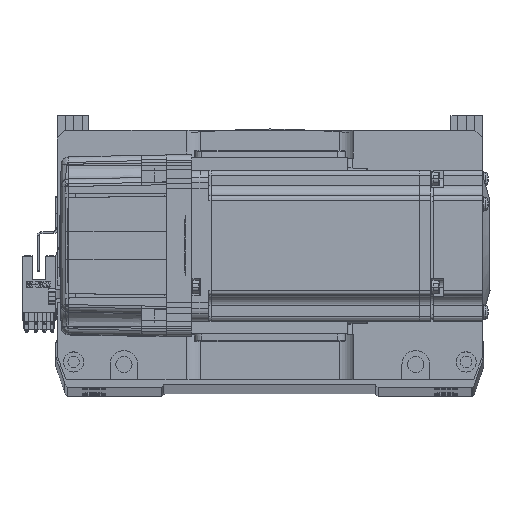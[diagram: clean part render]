
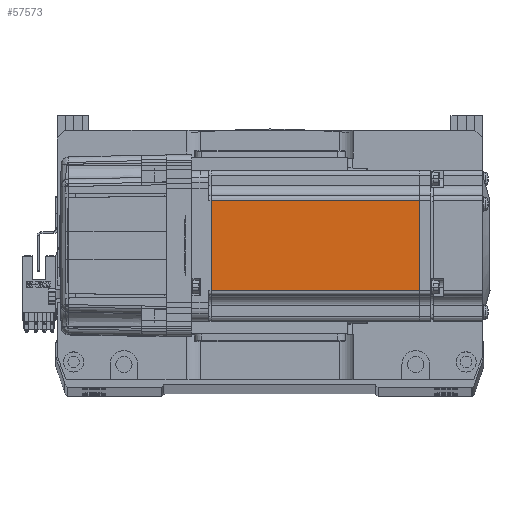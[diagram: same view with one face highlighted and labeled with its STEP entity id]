
A CAD part, top view. The second image highlights one B-rep face of the part: STEP entity #57573.
In plain terms, the highlighted planar face has unit normal (0, 0, 1) as drawn and (0, -1, 0) by its records, which use the part's own axes.
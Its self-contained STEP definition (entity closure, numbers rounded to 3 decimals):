
#1871 = CARTESIAN_POINT ( 'NONE',  ( -6.5, -30., 18. ) ) ;
#5520 = CARTESIAN_POINT ( 'NONE',  ( -7.75, -30., -18. ) ) ;
#8478 = CARTESIAN_POINT ( 'NONE',  ( -6.5, -30., -25. ) ) ;
#9921 = CARTESIAN_POINT ( 'NONE',  ( -90.45, -30., 18. ) ) ;
#11276 = EDGE_CURVE ( 'NONE', #54494, #59807, #30160, .T. ) ;
#14559 = EDGE_CURVE ( 'NONE', #59807, #44037, #61522, .T. ) ;
#16055 = EDGE_LOOP ( 'NONE', ( #51710, #27807, #17865, #36378 ) ) ;
#17398 = EDGE_CURVE ( 'NONE', #44037, #32636, #25864, .T. ) ;
#17865 = ORIENTED_EDGE ( 'NONE', *, *, #66338, .T. ) ;
#21559 = CARTESIAN_POINT ( 'NONE',  ( -7.75, -30., -25. ) ) ;
#21625 = FACE_OUTER_BOUND ( 'NONE', #16055, .T. ) ;
#23440 = PLANE ( 'NONE',  #26776 ) ;
#25864 = LINE ( 'NONE', #1871, #52086 ) ;
#26776 = AXIS2_PLACEMENT_3D ( 'NONE', #8478, #34719, #45003 ) ;
#27807 = ORIENTED_EDGE ( 'NONE', *, *, #17398, .T. ) ;
#28319 = DIRECTION ( 'NONE',  ( -1., 0., 0. ) ) ;
#28792 = LINE ( 'NONE', #34023, #49228 ) ;
#30107 = DIRECTION ( 'NONE',  ( 0., 0., -1. ) ) ;
#30160 = LINE ( 'NONE', #41282, #55542 ) ;
#30312 = DIRECTION ( 'NONE',  ( 1., 0., 0. ) ) ;
#32628 = DIRECTION ( 'NONE',  ( 0., 0., 1. ) ) ;
#32636 = VERTEX_POINT ( 'NONE', #9921 ) ;
#34023 = CARTESIAN_POINT ( 'NONE',  ( -90.45, -30., -25. ) ) ;
#34719 = DIRECTION ( 'NONE',  ( 0., -1., 0. ) ) ;
#36378 = ORIENTED_EDGE ( 'NONE', *, *, #11276, .T. ) ;
#40545 = CARTESIAN_POINT ( 'NONE',  ( -90.45, -30., -18. ) ) ;
#41282 = CARTESIAN_POINT ( 'NONE',  ( -6.5, -30., -18. ) ) ;
#44037 = VERTEX_POINT ( 'NONE', #54993 ) ;
#45003 = DIRECTION ( 'NONE',  ( 0., 0., -1. ) ) ;
#47590 = VECTOR ( 'NONE', #32628, 1000. ) ;
#49228 = VECTOR ( 'NONE', #30107, 1000. ) ;
#51710 = ORIENTED_EDGE ( 'NONE', *, *, #14559, .T. ) ;
#52086 = VECTOR ( 'NONE', #28319, 1000. ) ;
#54494 = VERTEX_POINT ( 'NONE', #40545 ) ;
#54993 = CARTESIAN_POINT ( 'NONE',  ( -7.75, -30., 18. ) ) ;
#55542 = VECTOR ( 'NONE', #30312, 1000. ) ;
#57573 = ADVANCED_FACE ( 'NONE', ( #21625 ), #23440, .T. ) ;
#59807 = VERTEX_POINT ( 'NONE', #5520 ) ;
#61522 = LINE ( 'NONE', #21559, #47590 ) ;
#66338 = EDGE_CURVE ( 'NONE', #32636, #54494, #28792, .T. ) ;
